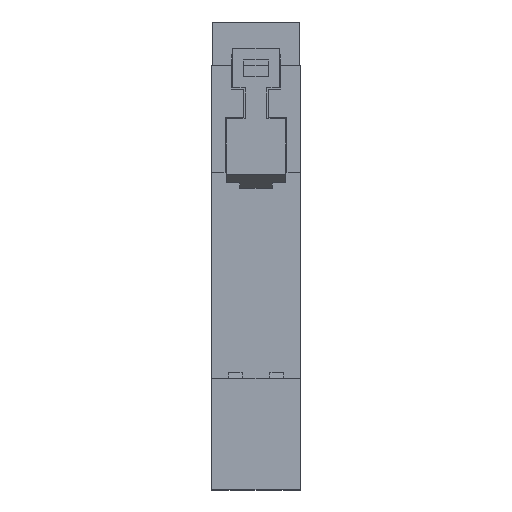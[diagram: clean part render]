
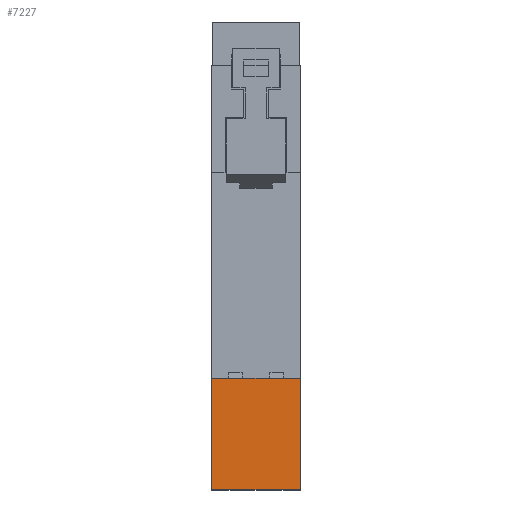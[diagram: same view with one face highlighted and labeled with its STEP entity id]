
A CAD part, front view. The second image highlights one B-rep face of the part: STEP entity #7227.
In plain terms, the highlighted planar face has unit normal (0, -1, 0).
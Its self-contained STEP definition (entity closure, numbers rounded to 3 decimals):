
#2627 = LINE ( 'NONE', #2628, #3312 ) ;
#2628 = CARTESIAN_POINT ( 'NONE',  ( 7.95, 0., 38. ) ) ;
#2629 = DIRECTION ( 'NONE',  ( 0., 0., -1. ) ) ;
#2630 = LINE ( 'NONE', #2631, #3309 ) ;
#2631 = CARTESIAN_POINT ( 'NONE',  ( -44.764, 0., -18. ) ) ;
#2632 = DIRECTION ( 'NONE',  ( 1., 0., 0. ) ) ;
#2987 = LINE ( 'NONE', #2988, #17023 ) ;
#2988 = CARTESIAN_POINT ( 'NONE',  ( 7.95, 0., -38. ) ) ;
#2989 = DIRECTION ( 'NONE',  ( -1., 0., 0. ) ) ;
#3309 = VECTOR ( 'NONE', #2632, 1000. ) ;
#3312 = VECTOR ( 'NONE', #2629, 1000. ) ;
#5889 = EDGE_CURVE ( 'NONE', #12258, #16380, #2627, .T. ) ;
#5890 = EDGE_CURVE ( 'NONE', #14343, #12258, #2630, .T. ) ;
#6009 = EDGE_CURVE ( 'NONE', #16380, #14359, #2987, .T. ) ;
#6182 = EDGE_CURVE ( 'NONE', #14343, #14359, #23091, .T. ) ;
#7227 = ADVANCED_FACE ( 'NONE', ( #19096 ), #8374, .F. ) ;
#8374 = PLANE ( 'NONE',  #19086 ) ;
#8375 = CARTESIAN_POINT ( 'NONE',  ( 7.95, 0., 38. ) ) ;
#8376 = DIRECTION ( 'NONE',  ( 0., 1., 0. ) ) ;
#8377 = DIRECTION ( 'NONE',  ( 0., 0., 1. ) ) ;
#8417 = CARTESIAN_POINT ( 'NONE',  ( 7.95, 0., -18. ) ) ;
#9157 = CARTESIAN_POINT ( 'NONE',  ( -7.95, 0., -18. ) ) ;
#9173 = CARTESIAN_POINT ( 'NONE',  ( -7.95, 0., -38. ) ) ;
#12258 = VERTEX_POINT ( 'NONE', #8417 ) ;
#13238 = ORIENTED_EDGE ( 'NONE', *, *, #6009, .F. ) ;
#13239 = ORIENTED_EDGE ( 'NONE', *, *, #5890, .F. ) ;
#13240 = ORIENTED_EDGE ( 'NONE', *, *, #6182, .T. ) ;
#13241 = ORIENTED_EDGE ( 'NONE', *, *, #5889, .F. ) ;
#14343 = VERTEX_POINT ( 'NONE', #9157 ) ;
#14359 = VERTEX_POINT ( 'NONE', #9173 ) ;
#14486 = EDGE_LOOP ( 'NONE', ( #13241, #13239, #13240, #13238 ) ) ;
#16380 = VERTEX_POINT ( 'NONE', #19848 ) ;
#17023 = VECTOR ( 'NONE', #2989, 1000. ) ;
#17318 = VECTOR ( 'NONE', #23093, 1000. ) ;
#19086 = AXIS2_PLACEMENT_3D ( 'NONE', #8375, #8376, #8377 ) ;
#19096 = FACE_OUTER_BOUND ( 'NONE', #14486, .T. ) ;
#19848 = CARTESIAN_POINT ( 'NONE',  ( 7.95, 0., -38. ) ) ;
#23091 = LINE ( 'NONE', #23092, #17318 ) ;
#23092 = CARTESIAN_POINT ( 'NONE',  ( -7.95, 0., 38. ) ) ;
#23093 = DIRECTION ( 'NONE',  ( 0., 0., -1. ) ) ;
